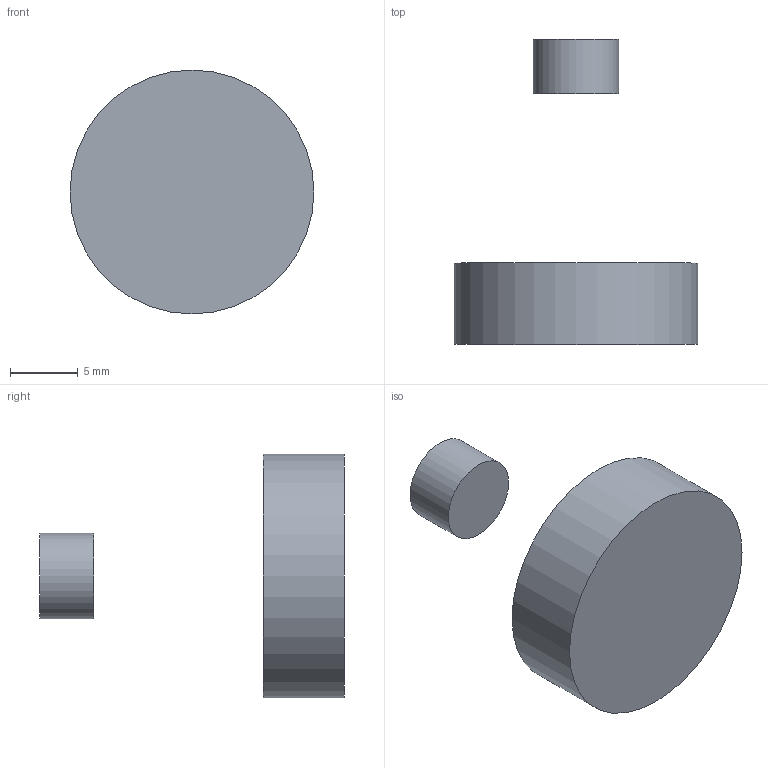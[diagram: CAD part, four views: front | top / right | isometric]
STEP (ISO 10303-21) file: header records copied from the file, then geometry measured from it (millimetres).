
FILE_DESCRIPTION(('Open CASCADE Model'),'2;1');
FILE_NAME('Open CASCADE Shape Model','2026-10-17T22:15:36',('Author'),( 'Open CASCADE'),'Open CASCADE STEP processor 7.9','Open CASCADE 7.9' ,'Unknown');
FILE_SCHEMA(('AUTOMOTIVE_DESIGN { 1 0 10303 214 1 1 1 1 }'));
Length unit declared in the file: millimetre
Products named in the file (3): Open CASCADE STEP translator 7.9 11; Open CASCADE STEP translator 7.9 11.1; Open CASCADE STEP translator 7.9 11.2
Assembly tree (2 placements, depth 2):
  Open CASCADE STEP translator 7.9 11
    Open CASCADE STEP translator 7.9 11.1
    Open CASCADE STEP translator 7.9 11.2
Bounding box: 18 x 22.5 x 18 mm (x, y, z)
Volume: 1651.5 mm3; surface area: 989.7 mm2
Topology: 2 solids, 2 shells, 6 faces, 6 edges, 4 vertices
Faces by surface type: plane 4, cylinder 2
Full cylindrical faces by diameter (mm): 6.3 x1, 18 x1
Entity records: 236 total; most frequent: DIRECTION 40, CARTESIAN_POINT 31, AXIS2_PLACEMENT_3D 13, ORIENTED_EDGE 12, PCURVE 12, DEFINITIONAL_REPRESENTATION 12, LINE 10, VECTOR 10
